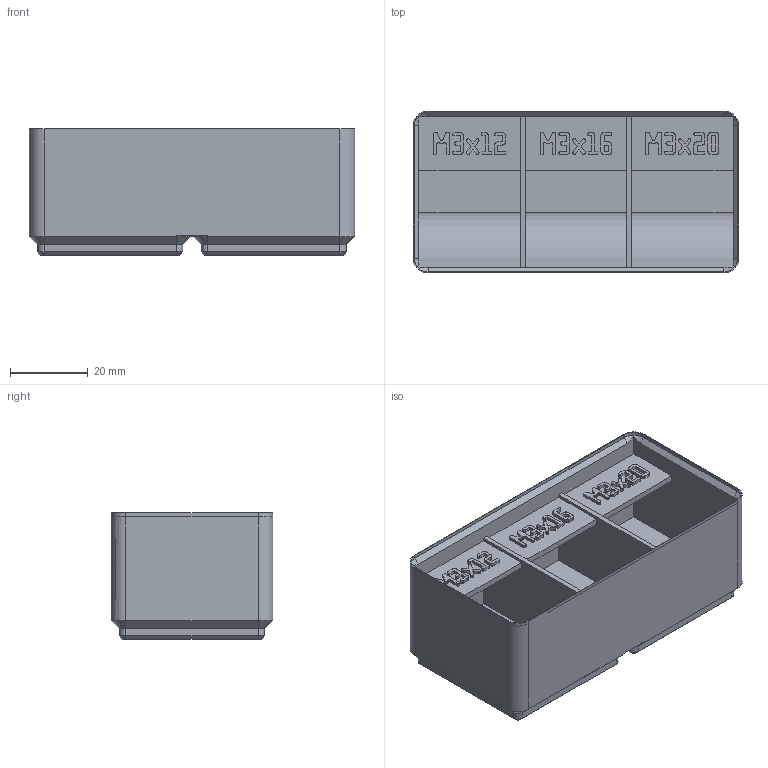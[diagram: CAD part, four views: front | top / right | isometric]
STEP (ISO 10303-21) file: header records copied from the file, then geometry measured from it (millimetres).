
FILE_DESCRIPTION(('Open CASCADE Model'),'2;1');
FILE_NAME('Open CASCADE Shape Model','2026-11-16T17:32:08',('Author'),( 'Open CASCADE'),'Open CASCADE STEP processor 8.0','build123d', 'Unknown');
FILE_SCHEMA(('AUTOMOTIVE_DESIGN { 1 0 10303 214 1 1 1 1 }'));
Products named in the file (1): SOLID
Bounding box: 83.5 x 41.5 x 32.4 mm (x, y, z)
Volume: 49380.4 mm3; surface area: 23506.8 mm2
Topology: 1 solids, 1 shells, 1726 faces, 5056 edges, 3352 vertices
Faces by surface type: plane 1683, cylinder 23, cone 20
Entity records: 118536 total; most frequent: CARTESIAN_POINT 23805, DIRECTION 15310, LINE 11708, VECTOR 11708, ORIENTED_EDGE 10112, PCURVE 10112, DEFINITIONAL_REPRESENTATION 10112, EDGE_CURVE 5056
